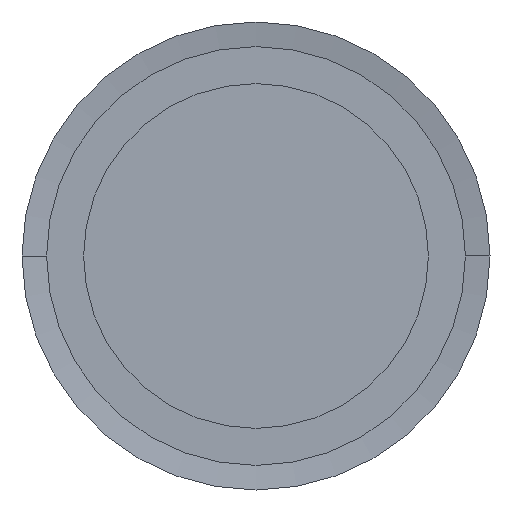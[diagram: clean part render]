
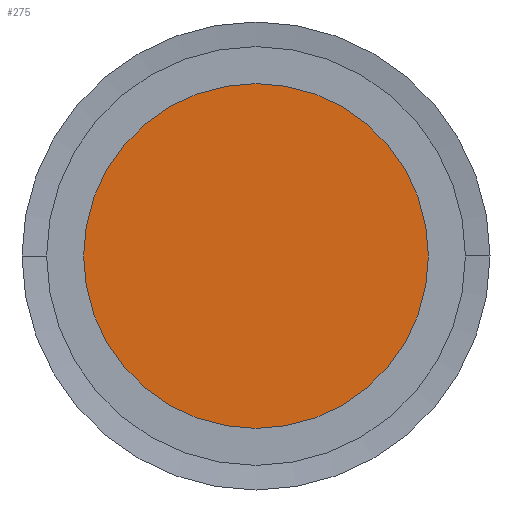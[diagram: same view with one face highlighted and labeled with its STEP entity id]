
A CAD part, left-side view. The second image highlights one B-rep face of the part: STEP entity #275.
In plain terms, the highlighted planar face has unit normal (-1, 0, 0).
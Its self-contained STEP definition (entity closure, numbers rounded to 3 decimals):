
#275 = ADVANCED_FACE( '', ( #682 ), #683, .T. );
#682 = FACE_OUTER_BOUND( '', #1089, .T. );
#683 = PLANE( '', #1090 );
#1089 = EDGE_LOOP( '', ( #2837, #2838 ) );
#1090 = AXIS2_PLACEMENT_3D( '', #2839, #2840, #2841 );
#2837 = ORIENTED_EDGE( '', *, *, #2845, .T. );
#2838 = ORIENTED_EDGE( '', *, *, #3415, .T. );
#2839 = CARTESIAN_POINT( '', ( 0., 7., 0. ) );
#2840 = DIRECTION( '', ( -1., 0., 0. ) );
#2841 = DIRECTION( '', ( 0., 1., 0. ) );
#2845 = EDGE_CURVE( '', #3417, #3421, #3423, .T. );
#3415 = EDGE_CURVE( '', #3421, #3417, #4369, .T. );
#3417 = VERTEX_POINT( '', #4371 );
#3421 = VERTEX_POINT( '', #4376 );
#3423 = CIRCLE( '', #4379, 14. );
#4369 = CIRCLE( '', #5649, 14. );
#4371 = CARTESIAN_POINT( '', ( 0., 14., 0. ) );
#4376 = CARTESIAN_POINT( '', ( 0., -14., 0. ) );
#4379 = AXIS2_PLACEMENT_3D( '', #5655, #5656, #5657 );
#5649 = AXIS2_PLACEMENT_3D( '', #6717, #6718, #6719 );
#5655 = CARTESIAN_POINT( '', ( 0., 0., 0. ) );
#5656 = DIRECTION( '', ( -1., 0., 0. ) );
#5657 = DIRECTION( '', ( 0., 1., 0. ) );
#6717 = CARTESIAN_POINT( '', ( 0., 0., 0. ) );
#6718 = DIRECTION( '', ( -1., 0., 0. ) );
#6719 = DIRECTION( '', ( 0., 1., 0. ) );
